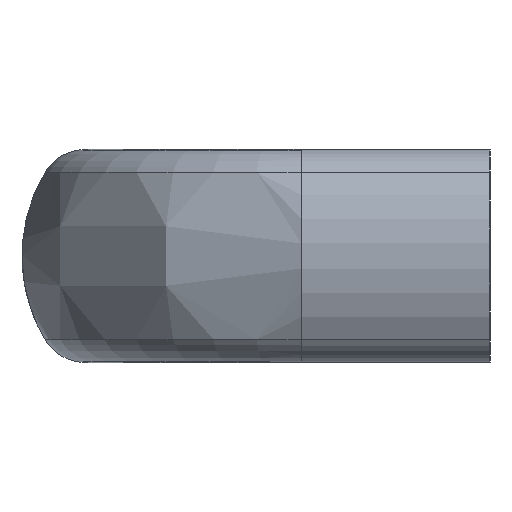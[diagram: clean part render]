
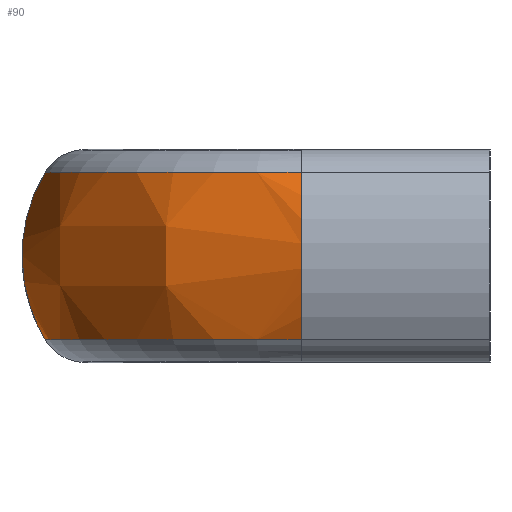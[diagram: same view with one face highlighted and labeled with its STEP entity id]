
A CAD part, left-side view. The second image highlights one B-rep face of the part: STEP entity #90.
In plain terms, the highlighted free-form (B-spline) face has degree [3, 3] with [4, 4] control points.
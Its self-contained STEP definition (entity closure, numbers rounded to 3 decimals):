
#90 = ADVANCED_FACE( '', ( #159 ), #160, .T. );
#159 = FACE_OUTER_BOUND( '', #265, .T. );
#160 = ( BOUNDED_SURFACE(  )B_SPLINE_SURFACE( 3, 3, ( ( #268, #269, #270, #271 ), ( #272, #273, #274, #275 ), ( #276, #277, #278, #279 ), ( #280, #281, #282, #283 ) ), .UNSPECIFIED., .F., .F., .F. )B_SPLINE_SURFACE_WITH_KNOTS( ( 4, 4 ), ( 4, 4 ), ( 1.571, 3.142 ), ( -0.537, 0.537 ), .UNSPECIFIED. )GEOMETRIC_REPRESENTATION_ITEM(  )RATIONAL_B_SPLINE_SURFACE( ( ( 1., 0.805, 0.805, 1. ), ( 0.906, 0.729, 0.729, 0.906 ), ( 0.906, 0.729, 0.729, 0.906 ), ( 1., 0.805, 0.805, 1. ) ) )REPRESENTATION_ITEM( '' )SURFACE(  ) );
#265 = EDGE_LOOP( '', ( #486, #487, #488, #489, #490 ) );
#268 = CARTESIAN_POINT( '', ( -224.5, 54.189, 10.177 ) );
#269 = CARTESIAN_POINT( '', ( -242.77, 54.189, 10.177 ) );
#270 = CARTESIAN_POINT( '', ( -255.689, 41.27, 10.177 ) );
#271 = CARTESIAN_POINT( '', ( -255.689, 23., 10.177 ) );
#272 = CARTESIAN_POINT( '', ( -224.5, 58.02, 3.744 ) );
#273 = CARTESIAN_POINT( '', ( -245.014, 58.02, 3.744 ) );
#274 = CARTESIAN_POINT( '', ( -259.52, 43.514, 3.744 ) );
#275 = CARTESIAN_POINT( '', ( -259.52, 23., 3.744 ) );
#276 = CARTESIAN_POINT( '', ( -224.5, 58.02, -3.744 ) );
#277 = CARTESIAN_POINT( '', ( -245.014, 58.02, -3.744 ) );
#278 = CARTESIAN_POINT( '', ( -259.52, 43.514, -3.744 ) );
#279 = CARTESIAN_POINT( '', ( -259.52, 23., -3.744 ) );
#280 = CARTESIAN_POINT( '', ( -224.5, 54.189, -10.177 ) );
#281 = CARTESIAN_POINT( '', ( -242.77, 54.189, -10.177 ) );
#282 = CARTESIAN_POINT( '', ( -255.689, 41.27, -10.177 ) );
#283 = CARTESIAN_POINT( '', ( -255.689, 23., -10.177 ) );
#486 = ORIENTED_EDGE( '', *, *, #819, .T. );
#487 = ORIENTED_EDGE( '', *, *, #820, .F. );
#488 = ORIENTED_EDGE( '', *, *, #816, .F. );
#489 = ORIENTED_EDGE( '', *, *, #788, .T. );
#490 = ORIENTED_EDGE( '', *, *, #787, .T. );
#787 = EDGE_CURVE( '', #923, #924, #925, .T. );
#788 = EDGE_CURVE( '', #926, #923, #927, .T. );
#816 = EDGE_CURVE( '', #926, #977, #978, .T. );
#819 = EDGE_CURVE( '', #924, #981, #982, .T. );
#820 = EDGE_CURVE( '', #977, #981, #983, .T. );
#923 = VERTEX_POINT( '', #1139 );
#924 = VERTEX_POINT( '', #1140 );
#925 = B_SPLINE_CURVE_WITH_KNOTS( '', 3, ( #1141, #1142, #1143, #1144, #1145, #1146 ), .UNSPECIFIED., .F., .F., ( 4, 2, 4 ), ( 0., 0.5, 1. ), .UNSPECIFIED. );
#926 = VERTEX_POINT( '', #1147 );
#927 = B_SPLINE_CURVE_WITH_KNOTS( '', 3, ( #1148, #1149, #1150, #1151, #1152, #1153 ), .UNSPECIFIED., .F., .F., ( 4, 2, 4 ), ( 0., 0.5, 1. ), .UNSPECIFIED. );
#977 = VERTEX_POINT( '', #1233 );
#978 = CIRCLE( '', #1234, 31.189 );
#981 = VERTEX_POINT( '', #1237 );
#982 = CIRCLE( '', #1238, 31.189 );
#983 = CIRCLE( '', #1239, 19.889 );
#1139 = CARTESIAN_POINT( '', ( -224.5, 56.995, 0.043 ) );
#1140 = CARTESIAN_POINT( '', ( -224.5, 54.189, -10.184 ) );
#1141 = CARTESIAN_POINT( '', ( -224.5, 56.99, 0.043 ) );
#1142 = CARTESIAN_POINT( '', ( -224.5, 56.994, -1.745 ) );
#1143 = CARTESIAN_POINT( '', ( -224.5, 56.755, -3.533 ) );
#1144 = CARTESIAN_POINT( '', ( -224.5, 55.81, -6.981 ) );
#1145 = CARTESIAN_POINT( '', ( -224.5, 55.104, -8.641 ) );
#1146 = CARTESIAN_POINT( '', ( -224.5, 54.189, -10.177 ) );
#1147 = CARTESIAN_POINT( '', ( -224.5, 54.188, 10.185 ) );
#1148 = CARTESIAN_POINT( '', ( -224.5, 54.189, 10.177 ) );
#1149 = CARTESIAN_POINT( '', ( -224.5, 55.097, 8.653 ) );
#1150 = CARTESIAN_POINT( '', ( -224.5, 55.799, 7.008 ) );
#1151 = CARTESIAN_POINT( '', ( -224.5, 56.744, 3.589 ) );
#1152 = CARTESIAN_POINT( '', ( -224.5, 56.986, 1.816 ) );
#1153 = CARTESIAN_POINT( '', ( -224.5, 56.99, 0.043 ) );
#1233 = CARTESIAN_POINT( '', ( -255.689, 23., 10.177 ) );
#1234 = AXIS2_PLACEMENT_3D( '', #1467, #1468, #1469 );
#1237 = CARTESIAN_POINT( '', ( -255.689, 23., -10.177 ) );
#1238 = AXIS2_PLACEMENT_3D( '', #1476, #1477, #1478 );
#1239 = AXIS2_PLACEMENT_3D( '', #1479, #1480, #1481 );
#1467 = CARTESIAN_POINT( '', ( -224.5, 23., 10.177 ) );
#1468 = DIRECTION( '', ( 0., 0., 1. ) );
#1469 = DIRECTION( '', ( 1., 0., 0. ) );
#1476 = CARTESIAN_POINT( '', ( -224.5, 23., -10.177 ) );
#1477 = DIRECTION( '', ( 0., 0., 1. ) );
#1478 = DIRECTION( '', ( 1., 0., 0. ) );
#1479 = CARTESIAN_POINT( '', ( -238.601, 23., 0. ) );
#1480 = DIRECTION( '', ( 0., -1., 0. ) );
#1481 = DIRECTION( '', ( 0., 0., 1. ) );
